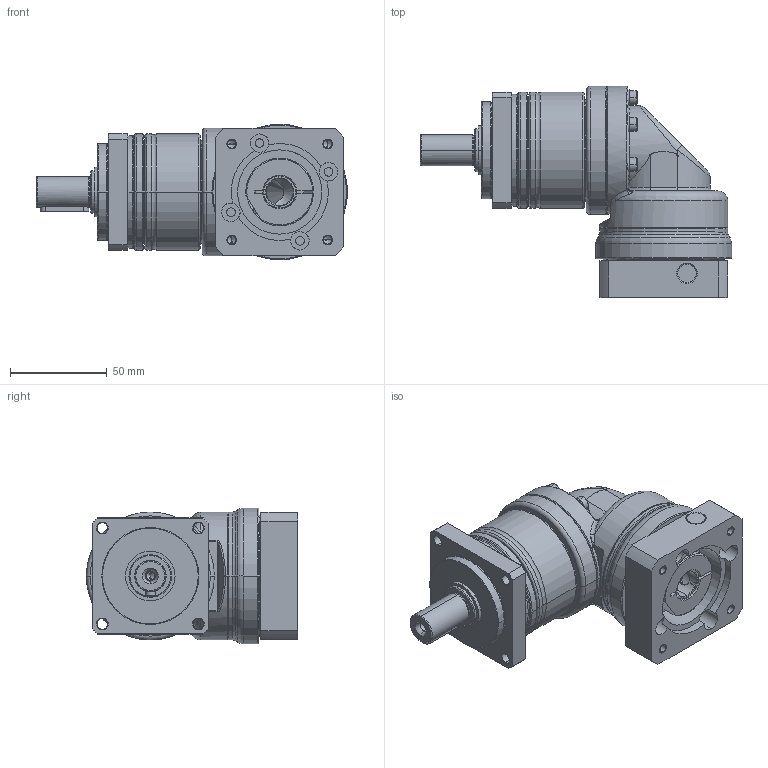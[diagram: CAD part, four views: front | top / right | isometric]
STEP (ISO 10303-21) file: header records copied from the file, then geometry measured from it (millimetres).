
FILE_DESCRIPTION((''),'2;1');
FILE_NAME('PA2R-060_1ST_14-P0411304905_ASM','2022-10-27T',('Administrator'),(''),'PRO/ENGINEER BY PARAMETRIC TECHNOLOGY CORPORATION, 2015240','PRO/ENGINEER BY PARAMETRIC TECHNOLOGY CORPORATION, 2015240','');
FILE_SCHEMA(('CONFIG_CONTROL_DESIGN'));
Length unit declared in the file: millimetre
Products named in the file (11): P1350200201_D; P1017200001_D; P1349210001_D; P0250220001_D; P1327210001_D; P0350201001_D; P0503300005_D; P0713200201_D; PA2R-060_1ST_14_ASM; P0411304905-0006; PA2R-060_1ST_14-P0411304905_ASM
Assembly tree (10 placements, depth 3):
  PA2R-060_1ST_14-P0411304905_ASM
    PA2R-060_1ST_14_ASM
      P1350200201_D
      P1017200001_D
      P1349210001_D
      P0250220001_D
      P1327210001_D
      P0350201001_D
      P0503300005_D
      P0713200201_D
    P0411304905-0006
Bounding box: 160.5 x 109 x 70 mm (x, y, z)
Volume: 341712.7 mm3; surface area: 98771 mm2
Topology: 9 solids, 15 shells, 438 faces, 1032 edges, 629 vertices
Faces by surface type: cylinder 169, plane 101, cone 78, torus 58, bspline 32
Entity records: 15804 total; most frequent: CARTESIAN_POINT 5463, DIRECTION 2266, ORIENTED_EDGE 2016, EDGE_CURVE 1020, AXIS2_PLACEMENT_3D 965, VERTEX_POINT 629, CIRCLE 524, EDGE_LOOP 499
